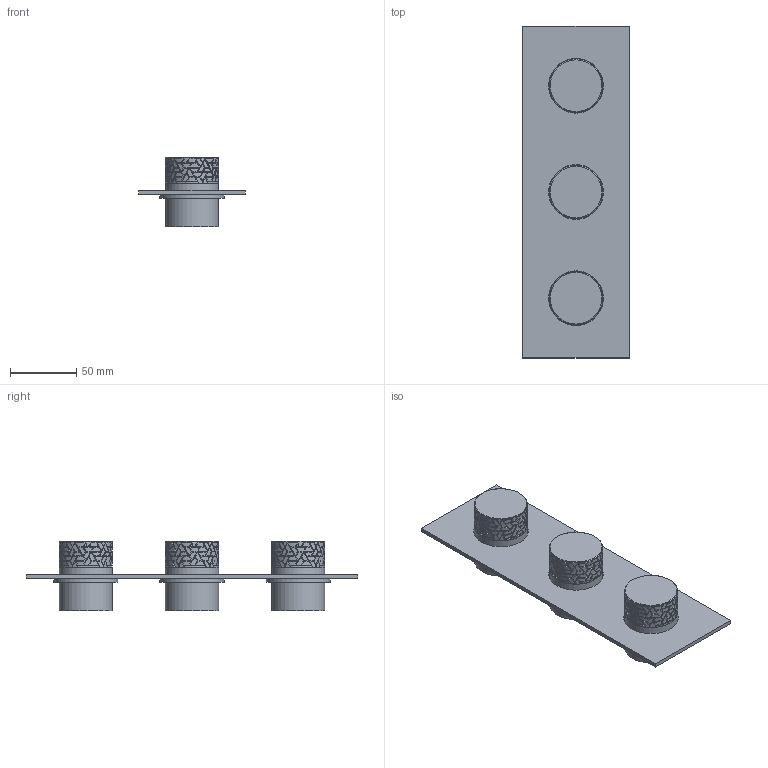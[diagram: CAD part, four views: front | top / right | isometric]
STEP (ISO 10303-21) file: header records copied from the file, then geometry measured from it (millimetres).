
FILE_DESCRIPTION(/* description */ (''),/* implementation_level */ '2;1');
FILE_NAME(/* name */ '000---TAB-128-2-OMI.stp',/* time_stamp */ '2024-05-20T14:40:46+08:00',/* author */ (''),/* organization */ (''),/* preprocessor_version */ 'ST-DEVELOPER v16.7',/* originating_system */ 'SIEMENS PLM Software NX 12.0',/* authorisation */ '');
FILE_SCHEMA (('AUTOMOTIVE_DESIGN { 1 0 10303 214 3 1 1 1 }'));
Products named in the file (1): Admi12787CC3rs48
Bounding box: 80 x 250 x 52.7 mm (x, y, z)
Volume: 153014.4 mm3; surface area: 95587.8 mm2
Topology: 16 solids, 16 shells, 1977 faces, 4989 edges, 3323 vertices
Faces by surface type: bspline 960, plane 579, cylinder 429, torus 6, cone 3
Full cylindrical faces by diameter (mm): 33 x3, 34.9 x3, 36.5 x6, 37 x3, 39 x3, 40 x6, 41.2 x3, 42 x3, 45.4 x3, 48.3 x3, 48.4 x3
Entity records: 80459 total; most frequent: CARTESIAN_POINT 41661, ORIENTED_EDGE 9780, EDGE_CURVE 4890, DIRECTION 4760, B_SPLINE_CURVE_WITH_KNOTS 3510, VERTEX_POINT 3287, AXIS2_PLACEMENT_3D 2365, EDGE_LOOP 2328
